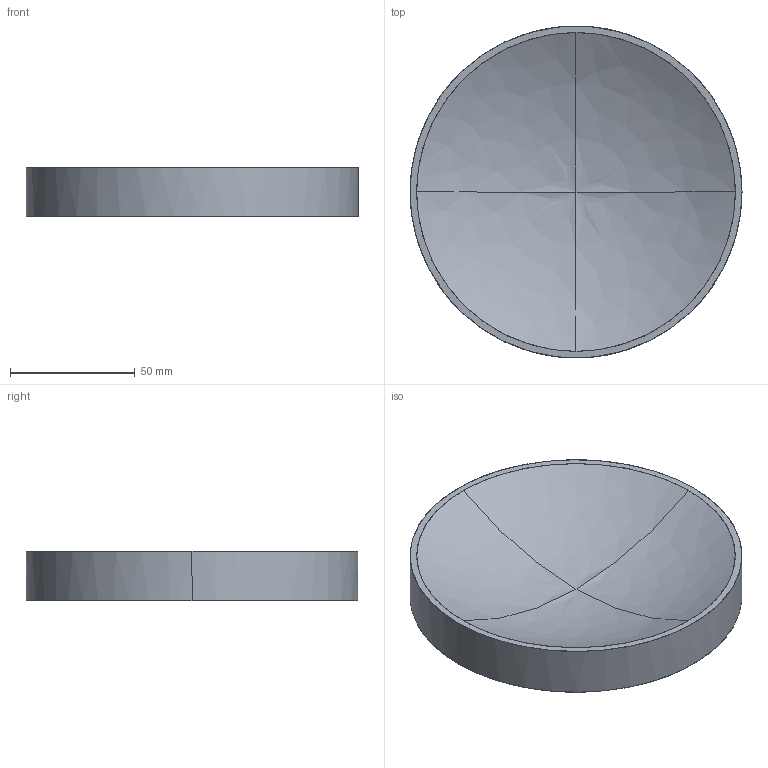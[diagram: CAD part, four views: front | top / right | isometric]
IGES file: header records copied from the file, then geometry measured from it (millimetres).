
Start section: C
Global section: file name: quartz_adapter.igs; native system:  By UGS Corp.; preprocessor: XPlus GENERIC/IGES 3.0; author: Author; organization: Title; date: 20110219.170507; units: millimetre
Bounding box: 133 x 132.81 x 20 mm (x, y, z)
Surface area: 36994 mm2 (no closed solid volume)
Topology: 0 solids, 0 shells, 8 faces, 32 edges, 28 vertices
Faces by surface type: bspline 8
